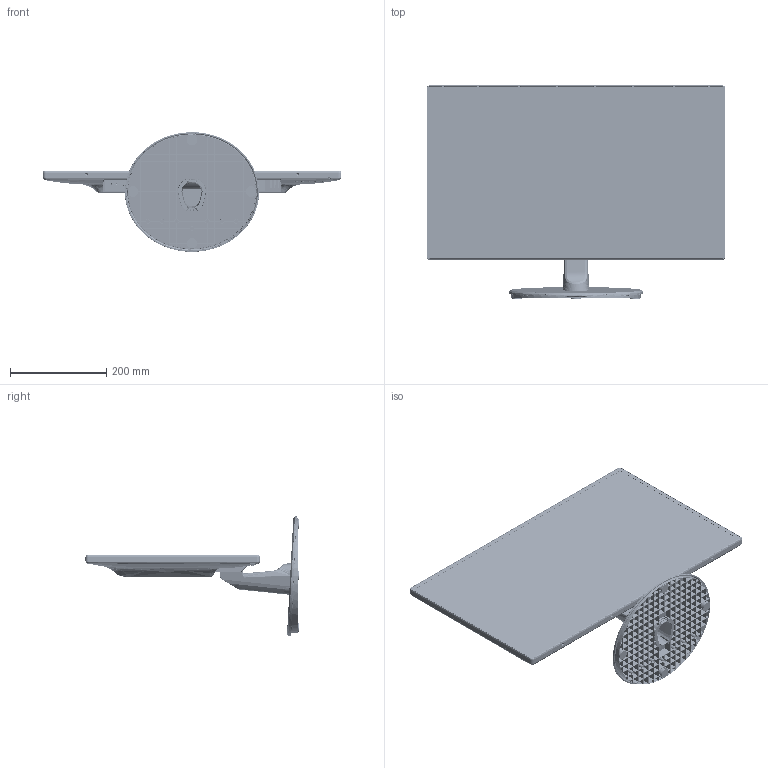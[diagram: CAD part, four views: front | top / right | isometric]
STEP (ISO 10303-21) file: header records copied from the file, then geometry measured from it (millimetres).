
FILE_DESCRIPTION (( 'STEP AP214' ), '1' );
FILE_NAME ('997-8369.STEP', '2016-06-21T17:50:58', ( '' ), ( '' ), 'SwSTEP 2.0', 'SolidWorks 2016', '' );
FILE_SCHEMA (( 'AUTOMOTIVE_DESIGN' ));
Length unit declared in the file: millimetre
Products named in the file (1): 997-8369
Bounding box: 620.16 x 442.63 x 248.4 mm (x, y, z)
Surface area: 1717345.8 mm2 (no closed solid volume)
Topology: 0 solids, 27 shells, 10580 faces, 29553 edges, 19329 vertices
Faces by surface type: plane 6925, cylinder 2766, bspline 684, cone 205
Entity records: 540254 total; most frequent: CARTESIAN_POINT 164903, ORIENTED_EDGE 58982, DIRECTION 45419, EDGE_CURVE 29523, VERTEX_POINT 19329, VECTOR 18069, LINE 18069, AXIS2_PLACEMENT_3D 13675
